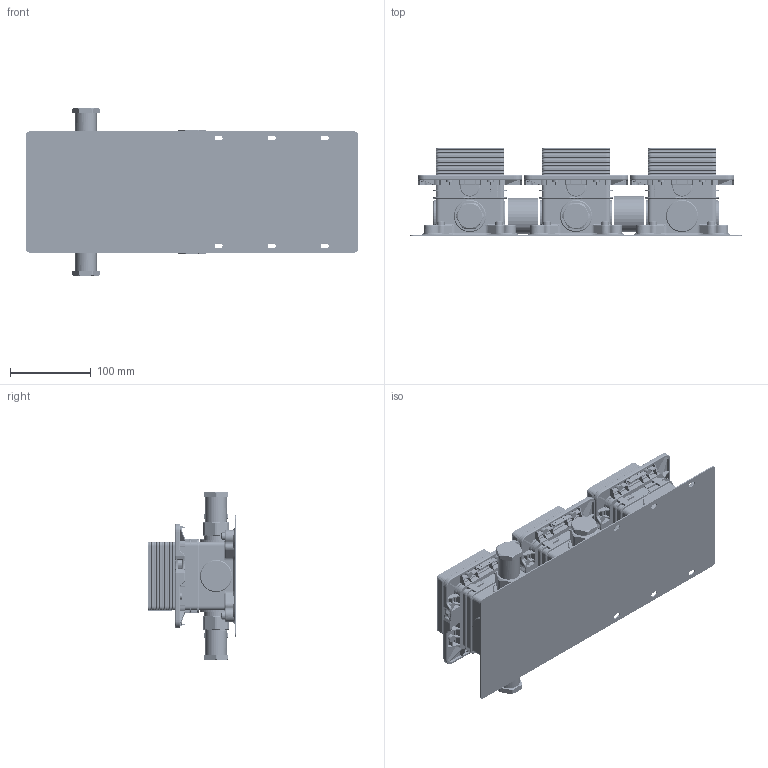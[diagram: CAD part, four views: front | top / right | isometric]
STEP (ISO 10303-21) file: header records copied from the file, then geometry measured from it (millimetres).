
FILE_DESCRIPTION((''),'2;1');
FILE_NAME('01_2-CONSUMER_EHM_BOX_SW0001','2025-12-12T10:59:26',('GE973'),(''),'CREO PARAMETRIC BY PTC INC, 2024133','CREO PARAMETRIC BY PTC INC, 2024133','');
FILE_SCHEMA(('CONFIG_CONTROL_DESIGN'));
Products named in the file (1): 01_2-CONSUMER_EHM_BOX_SW0001
Bounding box: 410 x 108.5 x 208 mm (x, y, z)
Volume: 1820893.3 mm3; surface area: 553429.9 mm2
Topology: 4 solids, 4 shells, 6790 faces, 16789 edges, 9995 vertices
Faces by surface type: plane 2656, cylinder 1820, bspline 935, cone 667, torus 634, sphere 72, extrusion 6
Entity records: 269615 total; most frequent: CARTESIAN_POINT 117944, ORIENTED_EDGE 33386, DIRECTION 29179, EDGE_CURVE 16693, AXIS2_PLACEMENT_3D 10316, VERTEX_POINT 9995, VECTOR 8547, LINE 8541
